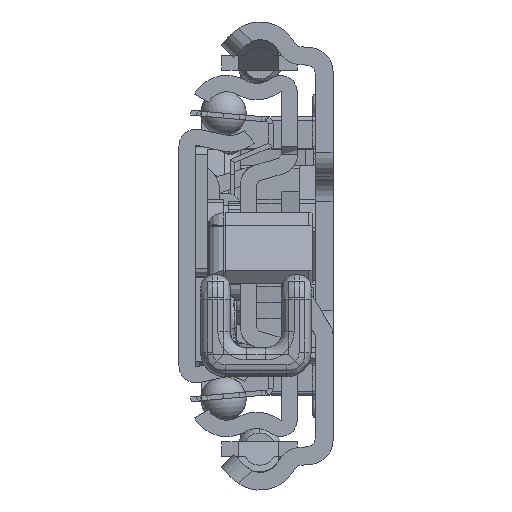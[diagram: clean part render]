
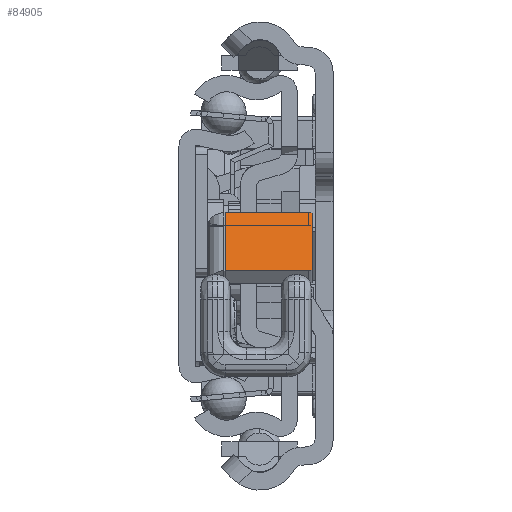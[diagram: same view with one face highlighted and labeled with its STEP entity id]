
A CAD part, left-side view. The second image highlights one B-rep face of the part: STEP entity #84905.
In plain terms, the highlighted planar face has unit normal (-0.597, 0, 0.802) as drawn and (-0.597, -0.802, 0) by its records, which use the part's own axes.
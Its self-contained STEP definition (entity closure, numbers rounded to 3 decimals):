
#84293=DIRECTION('',(0.802,-0.597,0.));
#84294=VECTOR('',#84293,12.);
#84295=CARTESIAN_POINT('',(31.957,-10.314,-0.2));
#84296=LINE('',#84295,#84294);
#84321=DIRECTION('',(0.,0.,1.));
#84322=VECTOR('',#84321,10.3);
#84323=CARTESIAN_POINT('',(41.586,-17.476,-10.5));
#84324=LINE('',#84323,#84322);
#84325=CARTESIAN_POINT('',(41.184,-17.178,-10.5));
#84326=DIRECTION('',(-0.597,-0.802,0.));
#84327=DIRECTION('',(0.,0.,-1.));
#84328=AXIS2_PLACEMENT_3D('',#84325,#84326,#84327);
#84330=DIRECTION('',(0.802,-0.597,0.));
#84331=VECTOR('',#84330,11.);
#84332=CARTESIAN_POINT('',(32.358,-10.613,-11.));
#84333=LINE('',#84332,#84331);
#84334=CARTESIAN_POINT('',(32.358,-10.613,-10.5));
#84335=DIRECTION('',(-0.597,-0.802,0.));
#84336=DIRECTION('',(-0.802,0.597,0.));
#84337=AXIS2_PLACEMENT_3D('',#84334,#84335,#84336);
#84339=DIRECTION('',(0.,0.,-1.));
#84340=VECTOR('',#84339,10.3);
#84341=CARTESIAN_POINT('',(31.957,-10.314,-0.2));
#84342=LINE('',#84341,#84340);
#84559=CARTESIAN_POINT('',(31.957,-10.314,-0.2));
#84560=CARTESIAN_POINT('',(41.586,-17.476,-0.2));
#84561=VERTEX_POINT('',#84559);
#84562=VERTEX_POINT('',#84560);
#84591=CARTESIAN_POINT('',(41.586,-17.476,-10.5));
#84592=VERTEX_POINT('',#84591);
#84593=CARTESIAN_POINT('',(32.358,-10.613,-11.));
#84594=CARTESIAN_POINT('',(41.184,-17.178,-11.));
#84595=VERTEX_POINT('',#84593);
#84596=VERTEX_POINT('',#84594);
#84597=CARTESIAN_POINT('',(31.957,-10.314,-10.5));
#84598=VERTEX_POINT('',#84597);
#84887=CARTESIAN_POINT('',(34.726,-12.374,2.));
#84888=DIRECTION('',(0.597,0.802,0.));
#84889=DIRECTION('',(0.802,-0.597,0.));
#84890=AXIS2_PLACEMENT_3D('',#84887,#84888,#84889);
#84891=PLANE('',#84890);
#84893=ORIENTED_EDGE('',*,*,#84892,.F.);
#84895=ORIENTED_EDGE('',*,*,#84894,.F.);
#84897=ORIENTED_EDGE('',*,*,#84896,.F.);
#84899=ORIENTED_EDGE('',*,*,#84898,.F.);
#84901=ORIENTED_EDGE('',*,*,#84900,.F.);
#84902=ORIENTED_EDGE('',*,*,#84874,.T.);
#84903=EDGE_LOOP('',(#84893,#84895,#84897,#84899,#84901,#84902));
#84904=FACE_OUTER_BOUND('',#84903,.F.);
#84329=CIRCLE('',#84328,0.5);
#84338=CIRCLE('',#84337,0.5);
#84874=EDGE_CURVE('',#84561,#84562,#84296,.T.);
#84892=EDGE_CURVE('',#84592,#84562,#84324,.T.);
#84894=EDGE_CURVE('',#84596,#84592,#84329,.T.);
#84896=EDGE_CURVE('',#84595,#84596,#84333,.T.);
#84898=EDGE_CURVE('',#84598,#84595,#84338,.T.);
#84900=EDGE_CURVE('',#84561,#84598,#84342,.T.);
#84905=ADVANCED_FACE('',(#84904),#84891,.F.);
